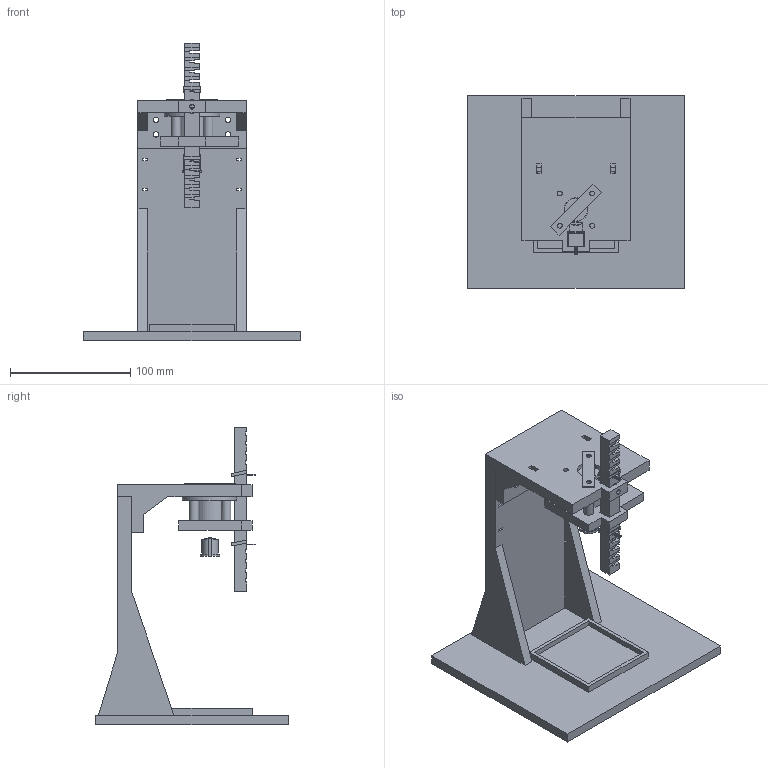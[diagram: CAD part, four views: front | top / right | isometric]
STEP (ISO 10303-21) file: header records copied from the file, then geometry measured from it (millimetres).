
FILE_DESCRIPTION(/* description */ (''),/* implementation_level */ '2;1');
FILE_NAME(/* name */ 'testbox1_front_632_hall_assembly.step',/* time_stamp */ '2026-11-14T21:40:03-08:00',/* author */ (''),/* organization */ (''),/* preprocessor_version */ 'ST-DEVELOPER v20.2',/* originating_system */ 'Autodesk Translation Framework v15.17.0.0',/* authorisation */ '');
FILE_SCHEMA (('AUTOMOTIVE_DESIGN { 1 0 10303 214 3 1 1 }'));
Length unit declared in the file: millimetre
Products named in the file (20): 2026-11-14-21-39-58-941; 2026-11-14-21-40-03-703; 2026-11-14-21-40-03-710; 2026-11-14-21-40-03-716; 2026-11-14-21-40-03-721; 2026-11-14-21-40-03-725; 2026-11-14-21-40-03-735; 2026-11-14-21-40-03-739; 2026-11-14-21-40-03-743; 2026-11-14-21-40-03-748; 2026-11-14-21-40-03-752; 2026-11-14-21-40-03-756; 2026-11-14-21-40-03-761; 2026-11-14-21-40-03-765; 2026-11-14-21-40-03-769; 2026-11-14-21-40-03-774; 2026-11-14-21-40-03-780; 2026-11-14-21-40-03-785; 2026-11-14-21-40-03-790; 2026-11-14-21-40-03-796
Assembly tree (19 placements, depth 2):
  2026-11-14-21-39-58-941
    2026-11-14-21-40-03-703
    2026-11-14-21-40-03-710
    2026-11-14-21-40-03-716
    2026-11-14-21-40-03-721
    2026-11-14-21-40-03-725
    2026-11-14-21-40-03-735
    2026-11-14-21-40-03-739
    2026-11-14-21-40-03-743
    2026-11-14-21-40-03-748
    2026-11-14-21-40-03-752
    2026-11-14-21-40-03-756
    2026-11-14-21-40-03-761
    2026-11-14-21-40-03-765
    2026-11-14-21-40-03-769
    2026-11-14-21-40-03-774
    2026-11-14-21-40-03-780
    2026-11-14-21-40-03-785
    2026-11-14-21-40-03-790
    2026-11-14-21-40-03-796
Bounding box: 180 x 160 x 248 mm (x, y, z)
Volume: 648881.7 mm3; surface area: 175125.4 mm2
Topology: 23 solids, 23 shells, 431 faces, 1134 edges, 748 vertices
Faces by surface type: plane 390, cylinder 41
Full cylindrical faces by diameter (mm): 4.1 x12, 4.5 x8, 8 x4, 9.525 x1, 10 x1, 19.05 x4, 19.6 x2, 25 x1, 26 x1
Entity records: 13864 total; most frequent: CARTESIAN_POINT 2386, ORIENTED_EDGE 2268, DIRECTION 2165, EDGE_CURVE 1134, LINE 1039, VECTOR 1039, VERTEX_POINT 748, AXIS2_PLACEMENT_3D 563
